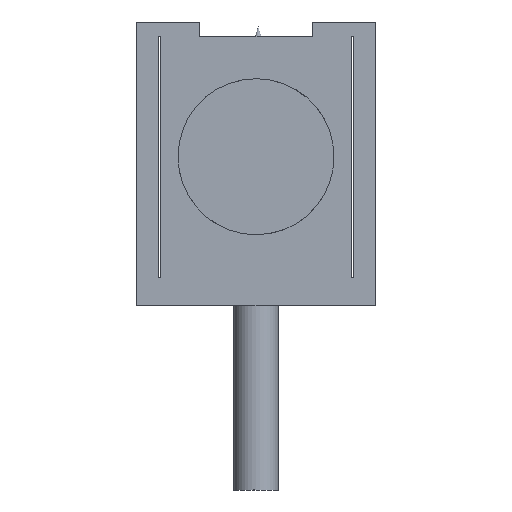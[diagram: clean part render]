
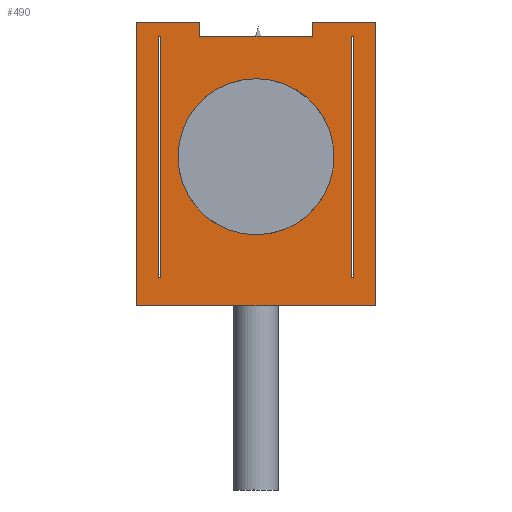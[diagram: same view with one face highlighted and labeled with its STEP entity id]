
A CAD part, left-side view. The second image highlights one B-rep face of the part: STEP entity #490.
In plain terms, the highlighted planar face has unit normal (-1, 0, 0).
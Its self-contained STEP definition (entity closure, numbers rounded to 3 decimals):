
#490=ADVANCED_FACE('', (#500,#510,#520,#530), #540, .T.);
#2820=AXIS2_PLACEMENT_3D('Ax2Pl3d', #2830, #2840, #2850);
#2860=AXIS2_PLACEMENT_3D('Ax2Pl3d', #2870, #2880, #2890);
#10890=CARTESIAN_POINT('', (1006.153,-2242.688,1159.72));
#10900=CARTESIAN_POINT('', (1006.153,-2242.838,1159.72));
#10910=CARTESIAN_POINT('', (1006.153,-2242.838,1159.72));
#10970=CARTESIAN_POINT('', (1006.153,-2256.338,1159.72));
#10980=CARTESIAN_POINT('', (1006.153,-2256.488,1159.72));
#10990=CARTESIAN_POINT('', (1006.153,-2256.488,1159.72));
#11210=CARTESIAN_POINT('', (1006.153,-2242.838,1176.72));
#11220=CARTESIAN_POINT('', (1006.153,-2242.688,1176.72));
#11230=CARTESIAN_POINT('', (1006.153,-2242.688,1176.72));
#11350=CARTESIAN_POINT('', (1006.153,-2245.638,1177.72));
#11360=CARTESIAN_POINT('', (1006.153,-2245.638,1176.72));
#11370=CARTESIAN_POINT('', (1006.153,-2245.638,1176.72));
#11600=CARTESIAN_POINT('', (1006.153,-2253.538,1176.72));
#11610=CARTESIAN_POINT('', (1006.153,-2253.538,1177.72));
#11620=CARTESIAN_POINT('', (1006.153,-2253.538,1177.72));
#11720=CARTESIAN_POINT('', (1006.153,-2256.488,1176.72));
#11730=CARTESIAN_POINT('', (1006.153,-2256.338,1176.72));
#11740=CARTESIAN_POINT('', (1006.153,-2256.338,1176.72));
#11910=CARTESIAN_POINT('', (1006.153,-2257.988,1177.72));
#11920=CARTESIAN_POINT('', (1006.153,-2257.988,1177.72));
#2830=CARTESIAN_POINT('HicPkt', (1006.153,-2253.538,
1176.72));
#11940=CARTESIAN_POINT('', (1006.153,-2245.638,1176.72));
#11950=CARTESIAN_POINT('', (1006.153,-2241.188,1177.72));
#11960=CARTESIAN_POINT('', (1006.153,-2241.188,1177.72));
#11970=CARTESIAN_POINT('', (1006.153,-2241.188,1157.72));
#11980=CARTESIAN_POINT('', (1006.153,-2241.188,1157.72));
#11990=CARTESIAN_POINT('', (1006.153,-2257.988,1157.72));
#12000=CARTESIAN_POINT('', (1006.153,-2257.988,1157.72));
#12010=CARTESIAN_POINT('', (1006.153,-2257.988,1177.72));
#12020=CARTESIAN_POINT('', (1006.153,-2256.338,1176.72));
#12030=CARTESIAN_POINT('', (1006.153,-2256.488,1159.72));
#12040=CARTESIAN_POINT('', (1006.153,-2242.838,1159.72));
#12050=CARTESIAN_POINT('', (1006.153,-2242.688,1176.72));
#2870=CARTESIAN_POINT('HicPkt', (1006.153,-2249.588,
1168.22));
#12060=CARTESIAN_POINT('', (1006.153,-2244.088,1168.22));
#12510=CIRCLE('Circle', #2860, 5.5);
#16300=DIRECTION('', (0.,-1.,0.));
#16340=DIRECTION('', (0.,-1.,0.));
#16460=DIRECTION('', (0.,1.,0.));
#16530=DIRECTION('', (0.,0.,-1.));
#16660=DIRECTION('', (0.,0.,1.));
#16730=DIRECTION('', (0.,1.,0.));
#16850=DIRECTION('', (0.,-1.,0.));
#2840=DIRECTION('Axis', (-1.,0.,0.));
#2850=DIRECTION('RefDirection', (0.,
0.,-1.));
#16870=DIRECTION('', (0.,1.,0.));
#16880=DIRECTION('', (0.,1.,0.));
#16890=DIRECTION('', (0.,0.,-1.));
#16900=DIRECTION('', (0.,-1.,0.));
#16910=DIRECTION('', (0.,0.,1.));
#16920=DIRECTION('', (0.,0.,1.));
#16930=DIRECTION('', (0.,0.,-1.));
#16940=DIRECTION('', (0.,0.,-1.));
#16950=DIRECTION('', (0.,0.,1.));
#2880=DIRECTION('Axis', (1.,0.,0.));
#2890=DIRECTION('RefDirection', (0.,0.,-1.));
#17190=EDGE_CURVE('', #17170, #17200, #17210, .T.);
#17310=EDGE_CURVE('', #17290, #17320, #17330, .T.);
#17690=EDGE_CURVE('', #17670, #17700, #17710, .T.);
#17900=EDGE_CURVE('', #17880, #17910, #17920, .T.);
#18320=EDGE_CURVE('', #18300, #18330, #18340, .T.);
#18510=EDGE_CURVE('', #18490, #18520, #18530, .T.);
#18810=EDGE_CURVE('', #18330, #18820, #18830, .T.);
#18860=EDGE_CURVE('', #18300, #17910, #18870, .T.);
#18880=EDGE_CURVE('', #17880, #18890, #18900, .T.);
#18910=EDGE_CURVE('', #18890, #18920, #18930, .T.);
#18940=EDGE_CURVE('', #18920, #18950, #18960, .T.);
#18970=EDGE_CURVE('', #18950, #18820, #18980, .T.);
#18990=EDGE_CURVE('', #17290, #18520, #19000, .T.);
#19010=EDGE_CURVE('', #18490, #17320, #19020, .T.);
#19030=EDGE_CURVE('', #17670, #17200, #19040, .T.);
#19050=EDGE_CURVE('', #17170, #17700, #19060, .T.);
#19070=EDGE_CURVE('', #19080, #19080, #12510, .T.);
#21030=EDGE_LOOP('Edge_loop', (#21040,#21050,#21060,#21070,#21080,
#21090,#21100,#21110));
#21120=EDGE_LOOP('Edge_loop', (#21130,#21140,#21150,#21160));
#21170=EDGE_LOOP('Edge_loop', (#21180,#21190,#21200,#21210));
#21220=EDGE_LOOP('Edge_loop', (#21230));
#510=FACE_BOUND('', #21120, .T.);
#520=FACE_BOUND('', #21170, .T.);
#530=FACE_BOUND('', #21220, .T.);
#500=FACE_OUTER_BOUND('Face_outer_bound', #21030, .T.);
#17210=LINE('Line', #10900, #23540);
#17330=LINE('Line', #10980, #23580);
#17710=LINE('Line', #11220, #23700);
#17920=LINE('Line', #11360, #23770);
#18340=LINE('Line', #11610, #23900);
#18530=LINE('Line', #11730, #23970);
#18830=LINE('Line', #11910, #24090);
#18870=LINE('Line', #11940, #24110);
#18900=LINE('Line', #11950, #24120);
#18930=LINE('Line', #11970, #24130);
#18960=LINE('Line', #11990, #24140);
#18980=LINE('Line', #12010, #24150);
#19000=LINE('Line', #12020, #24160);
#19020=LINE('Line', #12030, #24170);
#19040=LINE('Line', #12040, #24180);
#19060=LINE('Line', #12050, #24190);
#21040=ORIENTED_EDGE('', *, *, #18860, .T.);
#21050=ORIENTED_EDGE('', *, *, #17900, .F.);
#21060=ORIENTED_EDGE('', *, *, #18880, .T.);
#21070=ORIENTED_EDGE('', *, *, #18910, .T.);
#21080=ORIENTED_EDGE('', *, *, #18940, .T.);
#21090=ORIENTED_EDGE('', *, *, #18970, .T.);
#21100=ORIENTED_EDGE('', *, *, #18810, .F.);
#21110=ORIENTED_EDGE('', *, *, #18320, .F.);
#21130=ORIENTED_EDGE('', *, *, #18990, .T.);
#21140=ORIENTED_EDGE('', *, *, #18510, .F.);
#21150=ORIENTED_EDGE('', *, *, #19010, .T.);
#21160=ORIENTED_EDGE('', *, *, #17310, .F.);
#21180=ORIENTED_EDGE('', *, *, #19030, .T.);
#21190=ORIENTED_EDGE('', *, *, #17190, .F.);
#21200=ORIENTED_EDGE('', *, *, #19050, .T.);
#21210=ORIENTED_EDGE('', *, *, #17690, .F.);
#21230=ORIENTED_EDGE('', *, *, #19070, .T.);
#540=PLANE('Plane', #2820);
#23540=VECTOR('', #16300, 0.15);
#23580=VECTOR('', #16340, 0.15);
#23700=VECTOR('', #16460, 0.15);
#23770=VECTOR('', #16530, 1.);
#23900=VECTOR('', #16660, 1.);
#23970=VECTOR('', #16730, 0.15);
#24090=VECTOR('', #16850, 4.45);
#24110=VECTOR('', #16870, 7.9);
#24120=VECTOR('', #16880, 4.45);
#24130=VECTOR('', #16890, 20.);
#24140=VECTOR('', #16900, 16.8);
#24150=VECTOR('', #16910, 20.);
#24160=VECTOR('', #16920, 17.);
#24170=VECTOR('', #16930, 17.);
#24180=VECTOR('', #16940, 17.);
#24190=VECTOR('', #16950, 17.);
#17170=VERTEX_POINT('', #10890);
#17200=VERTEX_POINT('', #10910);
#17290=VERTEX_POINT('', #10970);
#17320=VERTEX_POINT('', #10990);
#17670=VERTEX_POINT('', #11210);
#17700=VERTEX_POINT('', #11230);
#17880=VERTEX_POINT('', #11350);
#17910=VERTEX_POINT('', #11370);
#18300=VERTEX_POINT('', #11600);
#18330=VERTEX_POINT('', #11620);
#18490=VERTEX_POINT('', #11720);
#18520=VERTEX_POINT('', #11740);
#18820=VERTEX_POINT('', #11920);
#18890=VERTEX_POINT('', #11960);
#18920=VERTEX_POINT('', #11980);
#18950=VERTEX_POINT('', #12000);
#19080=VERTEX_POINT('', #12060);
